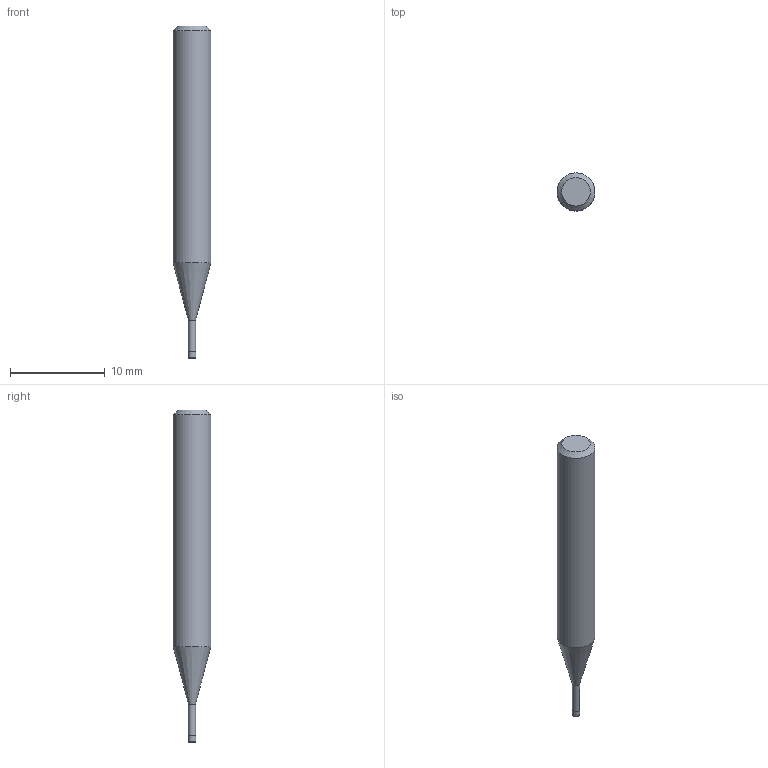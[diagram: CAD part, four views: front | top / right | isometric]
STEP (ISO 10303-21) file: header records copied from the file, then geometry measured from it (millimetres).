
FILE_DESCRIPTION((''),'2;1');
FILE_NAME('C:\Users\nsx150\AppData\Local\Temp\Mastercam 2021\80JYEHYUML\TEMP.step','2022-03-29T14:35:46',(''),(''),'STEP Write','Mastercam 2021 ... CNC Software, Inc.','');
FILE_SCHEMA(('AUTOMOTIVE_DESIGN'));
Length unit declared in the file: millimetre
Products named in the file (1): None
Bounding box: 4 x 4 x 35 mm (x, y, z)
Volume: 345 mm3; surface area: 380 mm2
Topology: 2 solids, 2 shells, 10 faces, 14 edges, 8 vertices
Faces by surface type: plane 4, cylinder 3, cone 2, torus 1
Full cylindrical faces by diameter (mm): 0.76 x1, 0.8 x1, 4 x1
Entity records: 232 total; most frequent: DIRECTION 40, CARTESIAN_POINT 28, AXIS2_PLACEMENT_3D 20, ORIENTED_EDGE 16, EDGE_LOOP 16, STYLED_ITEM 13, ADVANCED_FACE 10, FACE_BOUND 10
